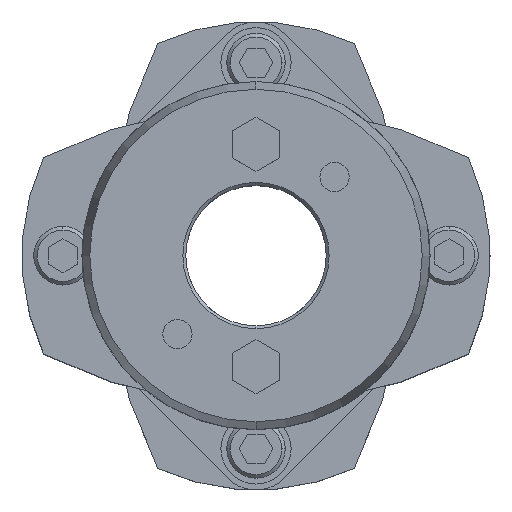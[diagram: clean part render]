
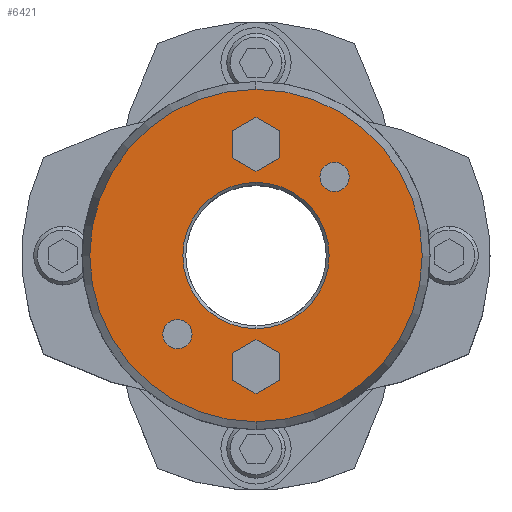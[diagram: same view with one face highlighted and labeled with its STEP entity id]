
A CAD part, top view. The second image highlights one B-rep face of the part: STEP entity #6421.
In plain terms, the highlighted planar face has unit normal (0, 0, 1).
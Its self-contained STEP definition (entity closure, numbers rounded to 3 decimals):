
#1677=CARTESIAN_POINT('',(0.,12.5,45.25));
#1678=VERTEX_POINT('',#1677);
#1694=CARTESIAN_POINT('',(0.,-12.5,45.25));
#1695=VERTEX_POINT('',#1694);
#1702=CARTESIAN_POINT('',(0.,0.,45.25));
#1703=DIRECTION('',(0.0,0.0,1.0));
#1704=DIRECTION('',(0.,1.0,0.0));
#1705=AXIS2_PLACEMENT_3D('',#1702,#1703,#1704);
#1706=CIRCLE('',#1705,12.5);
#1707=EDGE_CURVE('',#1695,#1678,#1706,.T.);
#1823=CARTESIAN_POINT('',(0.,-28.41,45.25));
#1824=VERTEX_POINT('',#1823);
#1833=CARTESIAN_POINT('',(0.,28.41,45.25));
#1834=VERTEX_POINT('',#1833);
#1835=CARTESIAN_POINT('',(0.,0.,45.25));
#1836=DIRECTION('',(0.0,0.0,-1.0));
#1837=DIRECTION('',(0.,-1.0,0.0));
#1838=AXIS2_PLACEMENT_3D('',#1835,#1836,#1837);
#1839=CIRCLE('',#1838,28.41);
#1840=EDGE_CURVE('',#1824,#1834,#1839,.T.);
#2009=CARTESIAN_POINT('',(13.435,15.935,45.25));
#2010=VERTEX_POINT('',#2009);
#2026=CARTESIAN_POINT('',(13.435,10.935,45.25));
#2027=VERTEX_POINT('',#2026);
#2034=CARTESIAN_POINT('',(13.435,13.435,45.25));
#2035=DIRECTION('',(0.0,0.0,-1.0));
#2036=DIRECTION('',(0.,1.0,0.0));
#2037=AXIS2_PLACEMENT_3D('',#2034,#2035,#2036);
#2038=CIRCLE('',#2037,2.5);
#2039=EDGE_CURVE('',#2010,#2027,#2038,.T.);
#2051=CARTESIAN_POINT('',(-13.435,-10.935,45.25));
#2052=VERTEX_POINT('',#2051);
#2068=CARTESIAN_POINT('',(-13.435,-15.935,45.25));
#2069=VERTEX_POINT('',#2068);
#2076=CARTESIAN_POINT('',(-13.435,-13.435,45.25));
#2077=DIRECTION('',(0.0,0.0,-1.0));
#2078=DIRECTION('',(0.,1.0,0.0));
#2079=AXIS2_PLACEMENT_3D('',#2076,#2077,#2078);
#2080=CIRCLE('',#2079,2.5);
#2081=EDGE_CURVE('',#2052,#2069,#2080,.T.);
#5547=CARTESIAN_POINT('',(0.,-14.381,45.25));
#5548=VERTEX_POINT('',#5547);
#5555=CARTESIAN_POINT('',(-4.,-16.691,45.25));
#5556=VERTEX_POINT('',#5555);
#5557=CARTESIAN_POINT('',(-4.,-16.691,45.25));
#5558=DIRECTION('',(0.866,0.5,0.0));
#5559=VECTOR('',#5558,4.619);
#5560=LINE('',#5557,#5559);
#5561=EDGE_CURVE('',#5556,#5548,#5560,.T.);
#5585=CARTESIAN_POINT('',(4.,-16.691,45.25));
#5586=VERTEX_POINT('',#5585);
#5593=CARTESIAN_POINT('',(0.,-14.381,45.25));
#5594=DIRECTION('',(0.866,-0.5,0.0));
#5595=VECTOR('',#5594,4.619);
#5596=LINE('',#5593,#5595);
#5597=EDGE_CURVE('',#5548,#5586,#5596,.T.);
#5616=CARTESIAN_POINT('',(4.,-21.309,45.25));
#5617=VERTEX_POINT('',#5616);
#5624=CARTESIAN_POINT('',(4.,-16.691,45.25));
#5625=DIRECTION('',(0.,-1.0,0.0));
#5626=VECTOR('',#5625,4.619);
#5627=LINE('',#5624,#5626);
#5628=EDGE_CURVE('',#5586,#5617,#5627,.T.);
#5647=CARTESIAN_POINT('',(0.,-23.619,45.25));
#5648=VERTEX_POINT('',#5647);
#5655=CARTESIAN_POINT('',(4.,-21.309,45.25));
#5656=DIRECTION('',(-0.866,-0.5,0.0));
#5657=VECTOR('',#5656,4.619);
#5658=LINE('',#5655,#5657);
#5659=EDGE_CURVE('',#5617,#5648,#5658,.T.);
#5678=CARTESIAN_POINT('',(-4.,-21.309,45.25));
#5679=VERTEX_POINT('',#5678);
#5686=CARTESIAN_POINT('',(0.,-23.619,45.25));
#5687=DIRECTION('',(-0.866,0.5,0.0));
#5688=VECTOR('',#5687,4.619);
#5689=LINE('',#5686,#5688);
#5690=EDGE_CURVE('',#5648,#5679,#5689,.T.);
#5708=CARTESIAN_POINT('',(-4.,-21.309,45.25));
#5709=DIRECTION('',(0.,1.0,0.0));
#5710=VECTOR('',#5709,4.619);
#5711=LINE('',#5708,#5710);
#5712=EDGE_CURVE('',#5679,#5556,#5711,.T.);
#5747=CARTESIAN_POINT('',(0.,23.619,45.25));
#5748=VERTEX_POINT('',#5747);
#5755=CARTESIAN_POINT('',(-4.,21.309,45.25));
#5756=VERTEX_POINT('',#5755);
#5757=CARTESIAN_POINT('',(-4.,21.309,45.25));
#5758=DIRECTION('',(0.866,0.5,0.0));
#5759=VECTOR('',#5758,4.619);
#5760=LINE('',#5757,#5759);
#5761=EDGE_CURVE('',#5756,#5748,#5760,.T.);
#5785=CARTESIAN_POINT('',(4.,21.309,45.25));
#5786=VERTEX_POINT('',#5785);
#5793=CARTESIAN_POINT('',(0.,23.619,45.25));
#5794=DIRECTION('',(0.866,-0.5,0.0));
#5795=VECTOR('',#5794,4.619);
#5796=LINE('',#5793,#5795);
#5797=EDGE_CURVE('',#5748,#5786,#5796,.T.);
#5816=CARTESIAN_POINT('',(4.,16.691,45.25));
#5817=VERTEX_POINT('',#5816);
#5824=CARTESIAN_POINT('',(4.,21.309,45.25));
#5825=DIRECTION('',(0.,-1.0,0.0));
#5826=VECTOR('',#5825,4.619);
#5827=LINE('',#5824,#5826);
#5828=EDGE_CURVE('',#5786,#5817,#5827,.T.);
#5847=CARTESIAN_POINT('',(0.,14.381,45.25));
#5848=VERTEX_POINT('',#5847);
#5855=CARTESIAN_POINT('',(4.,16.691,45.25));
#5856=DIRECTION('',(-0.866,-0.5,0.0));
#5857=VECTOR('',#5856,4.619);
#5858=LINE('',#5855,#5857);
#5859=EDGE_CURVE('',#5817,#5848,#5858,.T.);
#5878=CARTESIAN_POINT('',(-4.,16.691,45.25));
#5879=VERTEX_POINT('',#5878);
#5886=CARTESIAN_POINT('',(0.,14.381,45.25));
#5887=DIRECTION('',(-0.866,0.5,0.0));
#5888=VECTOR('',#5887,4.619);
#5889=LINE('',#5886,#5888);
#5890=EDGE_CURVE('',#5848,#5879,#5889,.T.);
#5908=CARTESIAN_POINT('',(-4.,16.691,45.25));
#5909=DIRECTION('',(0.,1.0,0.0));
#5910=VECTOR('',#5909,4.619);
#5911=LINE('',#5908,#5910);
#5912=EDGE_CURVE('',#5879,#5756,#5911,.T.);
#5938=CARTESIAN_POINT('',(-13.435,-13.435,45.25));
#5939=DIRECTION('',(0.0,0.0,-1.0));
#5940=DIRECTION('',(0.,1.0,0.0));
#5941=AXIS2_PLACEMENT_3D('',#5938,#5939,#5940);
#5942=CIRCLE('',#5941,2.5);
#5943=EDGE_CURVE('',#2069,#2052,#5942,.T.);
#5972=CARTESIAN_POINT('',(13.435,13.435,45.25));
#5973=DIRECTION('',(0.0,0.0,-1.0));
#5974=DIRECTION('',(0.,1.0,0.0));
#5975=AXIS2_PLACEMENT_3D('',#5972,#5973,#5974);
#5976=CIRCLE('',#5975,2.5);
#5977=EDGE_CURVE('',#2027,#2010,#5976,.T.);
#6368=CARTESIAN_POINT('',(0.,0.,45.25));
#6369=DIRECTION('',(0.0,0.0,-1.0));
#6370=DIRECTION('',(0.,-1.0,0.0));
#6371=AXIS2_PLACEMENT_3D('',#6368,#6369,#6370);
#6372=CIRCLE('',#6371,28.41);
#6373=EDGE_CURVE('',#1834,#1824,#6372,.T.);
#6378=CARTESIAN_POINT('',(0.,2.364,45.25));
#6379=DIRECTION('',(0.0,0.0,1.0));
#6380=DIRECTION('',(0.,1.0,0.0));
#6381=AXIS2_PLACEMENT_3D('',#6378,#6379,#6380);
#6382=PLANE('',#6381);
#6383=ORIENTED_EDGE('',*,*,#6373,.F.);
#6384=ORIENTED_EDGE('',*,*,#1840,.F.);
#6385=EDGE_LOOP('',(#6383,#6384));
#6386=FACE_OUTER_BOUND('',#6385,.T.);
#6387=ORIENTED_EDGE('',*,*,#5561,.T.);
#6388=ORIENTED_EDGE('',*,*,#5597,.T.);
#6389=ORIENTED_EDGE('',*,*,#5628,.T.);
#6390=ORIENTED_EDGE('',*,*,#5659,.T.);
#6391=ORIENTED_EDGE('',*,*,#5690,.T.);
#6392=ORIENTED_EDGE('',*,*,#5712,.T.);
#6393=EDGE_LOOP('',(#6387,#6388,#6389,#6390,#6391,#6392));
#6394=FACE_BOUND('',#6393,.T.);
#6395=ORIENTED_EDGE('',*,*,#5761,.T.);
#6396=ORIENTED_EDGE('',*,*,#5797,.T.);
#6397=ORIENTED_EDGE('',*,*,#5828,.T.);
#6398=ORIENTED_EDGE('',*,*,#5859,.T.);
#6399=ORIENTED_EDGE('',*,*,#5890,.T.);
#6400=ORIENTED_EDGE('',*,*,#5912,.T.);
#6401=EDGE_LOOP('',(#6395,#6396,#6397,#6398,#6399,#6400));
#6402=FACE_BOUND('',#6401,.T.);
#6403=ORIENTED_EDGE('',*,*,#2081,.T.);
#6404=ORIENTED_EDGE('',*,*,#5943,.T.);
#6405=EDGE_LOOP('',(#6403,#6404));
#6406=FACE_BOUND('',#6405,.T.);
#6407=ORIENTED_EDGE('',*,*,#2039,.T.);
#6408=ORIENTED_EDGE('',*,*,#5977,.T.);
#6409=EDGE_LOOP('',(#6407,#6408));
#6410=FACE_BOUND('',#6409,.T.);
#6411=ORIENTED_EDGE('',*,*,#1707,.F.);
#6412=CARTESIAN_POINT('',(0.,0.,45.25));
#6413=DIRECTION('',(0.0,0.0,1.0));
#6414=DIRECTION('',(0.,1.0,0.0));
#6415=AXIS2_PLACEMENT_3D('',#6412,#6413,#6414);
#6416=CIRCLE('',#6415,12.5);
#6417=EDGE_CURVE('',#1678,#1695,#6416,.T.);
#6418=ORIENTED_EDGE('',*,*,#6417,.F.);
#6419=EDGE_LOOP('',(#6411,#6418));
#6420=FACE_BOUND('',#6419,.T.);
#6421=ADVANCED_FACE('',(#6386,#6394,#6402,#6406,#6410,#6420),#6382,.T.);
